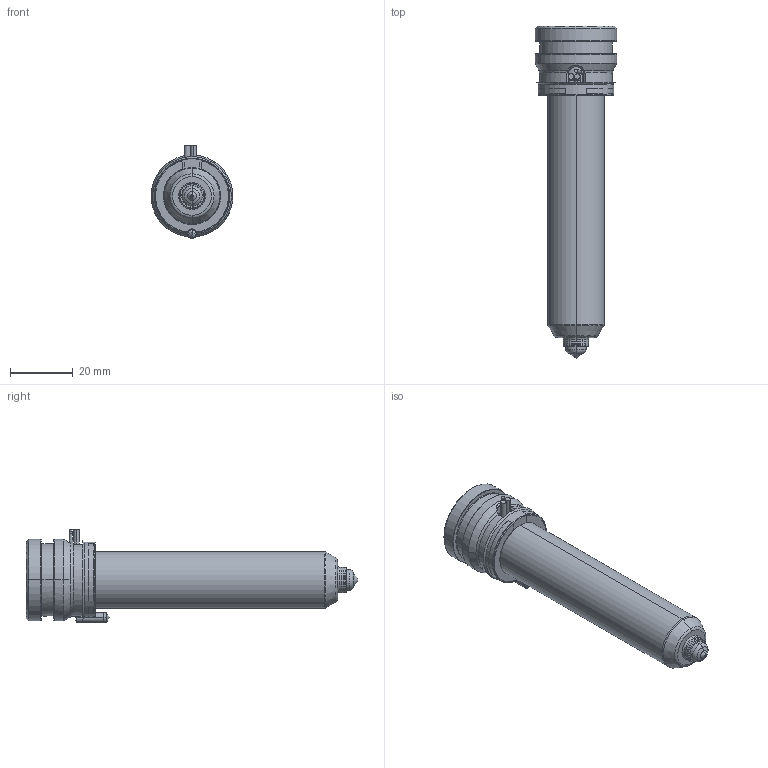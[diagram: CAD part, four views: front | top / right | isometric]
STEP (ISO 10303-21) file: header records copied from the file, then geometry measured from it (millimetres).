
FILE_DESCRIPTION((''),'2;1');
FILE_NAME('TH18087_5-A-1B15-PK-JG','2023-12-14T',('umhib'),('Thermoplay S.p.A.'),'PRO/ENGINEER BY PARAMETRIC TECHNOLOGY CORPORATION, 2017170','PRO/ENGINEER BY PARAMETRIC TECHNOLOGY CORPORATION, 2017170','');
FILE_SCHEMA(('CONFIG_CONTROL_DESIGN'));
Length unit declared in the file: millimetre
Products named in the file (1): TH18087_5-A-1B15-PK-JG
Bounding box: 26 x 105.5 x 29.5 mm (x, y, z)
Volume: 22309 mm3; surface area: 16263.7 mm2
Topology: 1 solids, 2 shells, 398 faces, 1036 edges, 643 vertices
Faces by surface type: cylinder 151, plane 85, cone 68, torus 56, bspline 24, sphere 12, extrusion 2
Entity records: 18089 total; most frequent: CARTESIAN_POINT 6121, ORIENTED_EDGE 2048, DIRECTION 2033, EDGE_CURVE 1026, AXIS2_PLACEMENT_3D 816, VERTEX_POINT 643, CIRCLE 443, EDGE_LOOP 418
